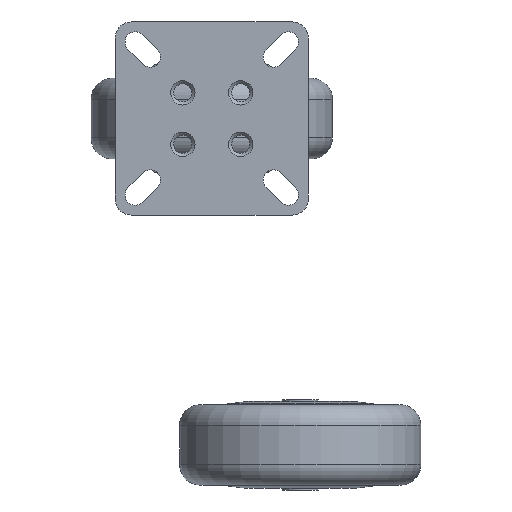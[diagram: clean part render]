
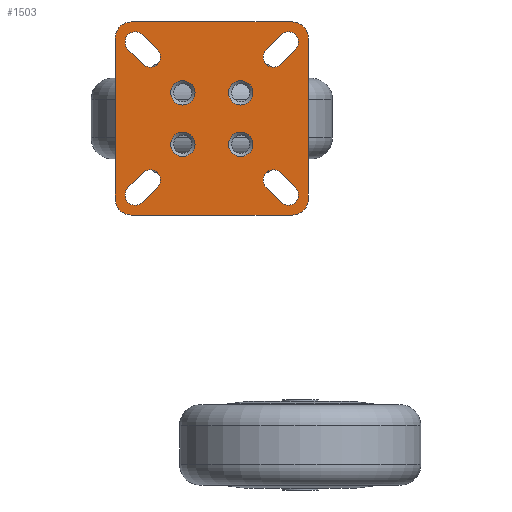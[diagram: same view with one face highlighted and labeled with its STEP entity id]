
A CAD part, front view. The second image highlights one B-rep face of the part: STEP entity #1503.
In plain terms, the highlighted planar face has unit normal (0, -1, 0) as drawn and (0, 1, 0) by its records, which use the part's own axes.
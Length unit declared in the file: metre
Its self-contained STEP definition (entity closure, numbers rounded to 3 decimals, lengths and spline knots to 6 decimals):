
#1503=ADVANCED_FACE('',(#4033,#4034,#4035,#4036,#4037,#4038,#4039,#4040,#4041),#4042,.T.);
#4033=FACE_OUTER_BOUND('',#6831,.T.);
#4034=FACE_BOUND('',#6832,.T.);
#4035=FACE_BOUND('',#6833,.T.);
#4036=FACE_BOUND('',#6834,.T.);
#4037=FACE_BOUND('',#6835,.T.);
#4038=FACE_BOUND('',#6836,.T.);
#4039=FACE_BOUND('',#6837,.T.);
#4040=FACE_BOUND('',#6838,.T.);
#4041=FACE_BOUND('',#6839,.T.);
#4042=PLANE('',#6840);
#6831=EDGE_LOOP('',(#18035,#18036,#18037,#18038,#18039,#18040,#18041,#18042));
#6832=EDGE_LOOP('',(#18043,#18044,#18045,#18046));
#6833=EDGE_LOOP('',(#18047,#18048,#18049,#18050));
#6834=EDGE_LOOP('',(#18051,#18052,#18053,#18054));
#6835=EDGE_LOOP('',(#18055));
#6836=EDGE_LOOP('',(#18056));
#6837=EDGE_LOOP('',(#18057));
#6838=EDGE_LOOP('',(#18058));
#6839=EDGE_LOOP('',(#18059,#18060,#18061,#18062));
#6840=AXIS2_PLACEMENT_3D('',#18063,#18064,#18065);
#18035=ORIENTED_EDGE('',*,*,#21732,.T.);
#18036=ORIENTED_EDGE('',*,*,#21733,.T.);
#18037=ORIENTED_EDGE('',*,*,#21734,.T.);
#18038=ORIENTED_EDGE('',*,*,#21735,.T.);
#18039=ORIENTED_EDGE('',*,*,#21736,.T.);
#18040=ORIENTED_EDGE('',*,*,#21737,.T.);
#18041=ORIENTED_EDGE('',*,*,#21738,.T.);
#18042=ORIENTED_EDGE('',*,*,#21739,.T.);
#18043=ORIENTED_EDGE('',*,*,#21740,.F.);
#18044=ORIENTED_EDGE('',*,*,#21741,.F.);
#18045=ORIENTED_EDGE('',*,*,#21742,.F.);
#18046=ORIENTED_EDGE('',*,*,#21743,.F.);
#18047=ORIENTED_EDGE('',*,*,#21744,.F.);
#18048=ORIENTED_EDGE('',*,*,#21745,.F.);
#18049=ORIENTED_EDGE('',*,*,#21746,.F.);
#18050=ORIENTED_EDGE('',*,*,#21747,.F.);
#18051=ORIENTED_EDGE('',*,*,#21730,.F.);
#18052=ORIENTED_EDGE('',*,*,#21748,.F.);
#18053=ORIENTED_EDGE('',*,*,#21749,.F.);
#18054=ORIENTED_EDGE('',*,*,#21750,.F.);
#18055=ORIENTED_EDGE('',*,*,#21751,.T.);
#18056=ORIENTED_EDGE('',*,*,#21752,.T.);
#18057=ORIENTED_EDGE('',*,*,#21753,.T.);
#18058=ORIENTED_EDGE('',*,*,#21754,.T.);
#18059=ORIENTED_EDGE('',*,*,#21755,.F.);
#18060=ORIENTED_EDGE('',*,*,#21756,.F.);
#18061=ORIENTED_EDGE('',*,*,#21757,.F.);
#18062=ORIENTED_EDGE('',*,*,#21758,.F.);
#18063=CARTESIAN_POINT('',(0.0,0.002,0.0));
#18064=DIRECTION('',(-0.0,1.0,0.0));
#18065=DIRECTION('',(1.0,0.0,0.0));
#21730=EDGE_CURVE('',#27143,#27145,#27146,.T.);
#21732=EDGE_CURVE('',#27148,#27149,#27150,.T.);
#21733=EDGE_CURVE('',#27149,#27151,#27152,.T.);
#21734=EDGE_CURVE('',#27151,#27153,#27154,.T.);
#21735=EDGE_CURVE('',#27153,#27155,#27156,.T.);
#21736=EDGE_CURVE('',#27155,#27157,#27158,.T.);
#21737=EDGE_CURVE('',#27157,#27159,#27160,.T.);
#21738=EDGE_CURVE('',#27159,#27161,#27162,.T.);
#21739=EDGE_CURVE('',#27161,#27148,#27163,.T.);
#21740=EDGE_CURVE('',#27164,#27165,#27166,.T.);
#21741=EDGE_CURVE('',#27167,#27164,#27168,.T.);
#21742=EDGE_CURVE('',#27169,#27167,#27170,.T.);
#21743=EDGE_CURVE('',#27165,#27169,#27171,.T.);
#21744=EDGE_CURVE('',#27172,#27173,#27174,.T.);
#21745=EDGE_CURVE('',#27175,#27172,#27176,.T.);
#21746=EDGE_CURVE('',#27177,#27175,#27178,.T.);
#21747=EDGE_CURVE('',#27173,#27177,#27179,.T.);
#21748=EDGE_CURVE('',#27180,#27143,#27181,.T.);
#21749=EDGE_CURVE('',#27182,#27180,#27183,.T.);
#21750=EDGE_CURVE('',#27145,#27182,#27184,.T.);
#21751=EDGE_CURVE('',#27185,#27185,#27186,.T.);
#21752=EDGE_CURVE('',#27187,#27187,#27188,.T.);
#21753=EDGE_CURVE('',#27189,#27189,#27190,.T.);
#21754=EDGE_CURVE('',#27191,#27191,#27192,.T.);
#21755=EDGE_CURVE('',#27193,#27194,#27195,.T.);
#21756=EDGE_CURVE('',#27196,#27193,#27197,.T.);
#21757=EDGE_CURVE('',#27198,#27196,#27199,.T.);
#21758=EDGE_CURVE('',#27194,#27198,#27200,.T.);
#27143=VERTEX_POINT('',#35927);
#27145=VERTEX_POINT('',#35930);
#27146=LINE('',#35931,#35932);
#27148=VERTEX_POINT('',#35935);
#27149=VERTEX_POINT('',#35936);
#27150=LINE('',#35937,#35938);
#27151=VERTEX_POINT('',#35939);
#27152=CIRCLE('',#35940,0.005);
#27153=VERTEX_POINT('',#35941);
#27154=LINE('',#35942,#35943);
#27155=VERTEX_POINT('',#35944);
#27156=CIRCLE('',#35945,0.005);
#27157=VERTEX_POINT('',#35946);
#27158=LINE('',#35947,#35948);
#27159=VERTEX_POINT('',#35949);
#27160=CIRCLE('',#35950,0.005);
#27161=VERTEX_POINT('',#35951);
#27162=LINE('',#35952,#35953);
#27163=CIRCLE('',#35954,0.005);
#27164=VERTEX_POINT('',#35955);
#27165=VERTEX_POINT('',#35956);
#27166=CIRCLE('',#35957,0.00315);
#27167=VERTEX_POINT('',#35958);
#27168=LINE('',#35959,#35960);
#27169=VERTEX_POINT('',#35961);
#27170=CIRCLE('',#35962,0.00315);
#27171=LINE('',#35963,#35964);
#27172=VERTEX_POINT('',#35965);
#27173=VERTEX_POINT('',#35966);
#27174=CIRCLE('',#35967,0.00315);
#27175=VERTEX_POINT('',#35968);
#27176=LINE('',#35969,#35970);
#27177=VERTEX_POINT('',#35971);
#27178=CIRCLE('',#35972,0.00315);
#27179=LINE('',#35973,#35974);
#27180=VERTEX_POINT('',#35975);
#27181=CIRCLE('',#35976,0.00315);
#27182=VERTEX_POINT('',#35977);
#27183=LINE('',#35978,#35979);
#27184=CIRCLE('',#35980,0.00315);
#27185=VERTEX_POINT('',#35981);
#27186=CIRCLE('',#35982,0.0038);
#27187=VERTEX_POINT('',#35983);
#27188=CIRCLE('',#35984,0.0038);
#27189=VERTEX_POINT('',#35985);
#27190=CIRCLE('',#35986,0.0038);
#27191=VERTEX_POINT('',#35987);
#27192=CIRCLE('',#35988,0.0038);
#27193=VERTEX_POINT('',#35989);
#27194=VERTEX_POINT('',#35990);
#27195=LINE('',#35991,#35992);
#27196=VERTEX_POINT('',#35993);
#27197=CIRCLE('',#35994,0.00315);
#27198=VERTEX_POINT('',#35995);
#27199=LINE('',#35996,#35997);
#27200=CIRCLE('',#35998,0.00315);
#35927=CARTESIAN_POINT('',(-0.021327,0.002,0.016873));
#35930=CARTESIAN_POINT('',(-0.026027,0.002,0.021573));
#35931=CARTESIAN_POINT('',(-0.021327,0.002,0.016873));
#35932=VECTOR('',#42325,1.0);
#35935=CARTESIAN_POINT('',(0.025,0.002,-0.03));
#35936=CARTESIAN_POINT('',(-0.025,0.002,-0.03));
#35937=CARTESIAN_POINT('',(0.0,0.002,-0.03));
#35938=VECTOR('',#42327,1.0);
#35939=CARTESIAN_POINT('',(-0.03,0.002,-0.025));
#35940=AXIS2_PLACEMENT_3D('',#42328,#42329,#42330);
#35941=CARTESIAN_POINT('',(-0.03,0.002,0.025));
#35942=CARTESIAN_POINT('',(-0.03,0.002,0.0));
#35943=VECTOR('',#42331,1.0);
#35944=CARTESIAN_POINT('',(-0.025,0.002,0.03));
#35945=AXIS2_PLACEMENT_3D('',#42332,#42333,#42334);
#35946=CARTESIAN_POINT('',(0.025,0.002,0.03));
#35947=CARTESIAN_POINT('',(0.0,0.002,0.03));
#35948=VECTOR('',#42335,1.0);
#35949=CARTESIAN_POINT('',(0.03,0.002,0.025));
#35950=AXIS2_PLACEMENT_3D('',#42336,#42337,#42338);
#35951=CARTESIAN_POINT('',(0.03,0.002,-0.025));
#35952=CARTESIAN_POINT('',(0.03,0.002,0.0));
#35953=VECTOR('',#42339,1.0);
#35954=AXIS2_PLACEMENT_3D('',#42340,#42341,#42342);
#35955=CARTESIAN_POINT('',(0.021573,0.002,0.026027));
#35956=CARTESIAN_POINT('',(0.026027,0.002,0.021573));
#35957=AXIS2_PLACEMENT_3D('',#42343,#42344,#42345);
#35958=CARTESIAN_POINT('',(0.016873,0.002,0.021327));
#35959=CARTESIAN_POINT('',(0.016873,0.002,0.021327));
#35960=VECTOR('',#42346,1.0);
#35961=CARTESIAN_POINT('',(0.021327,0.002,0.016873));
#35962=AXIS2_PLACEMENT_3D('',#42347,#42348,#42349);
#35963=CARTESIAN_POINT('',(0.026027,0.002,0.021573));
#35964=VECTOR('',#42350,1.0);
#35965=CARTESIAN_POINT('',(-0.021573,0.002,-0.026027));
#35966=CARTESIAN_POINT('',(-0.026027,0.002,-0.021573));
#35967=AXIS2_PLACEMENT_3D('',#42351,#42352,#42353);
#35968=CARTESIAN_POINT('',(-0.016873,0.002,-0.021327));
#35969=CARTESIAN_POINT('',(-0.016873,0.002,-0.021327));
#35970=VECTOR('',#42354,1.0);
#35971=CARTESIAN_POINT('',(-0.021327,0.002,-0.016873));
#35972=AXIS2_PLACEMENT_3D('',#42355,#42356,#42357);
#35973=CARTESIAN_POINT('',(-0.026027,0.002,-0.021573));
#35974=VECTOR('',#42358,1.0);
#35975=CARTESIAN_POINT('',(-0.016873,0.002,0.021327));
#35976=AXIS2_PLACEMENT_3D('',#42359,#42360,#42361);
#35977=CARTESIAN_POINT('',(-0.021573,0.002,0.026027));
#35978=CARTESIAN_POINT('',(-0.021573,0.002,0.026027));
#35979=VECTOR('',#42362,1.0);
#35980=AXIS2_PLACEMENT_3D('',#42363,#42364,#42365);
#35981=CARTESIAN_POINT('',(0.009,0.002,0.0118));
#35982=AXIS2_PLACEMENT_3D('',#42366,#42367,#42368);
#35983=CARTESIAN_POINT('',(-0.009,0.002,0.0118));
#35984=AXIS2_PLACEMENT_3D('',#42369,#42370,#42371);
#35985=CARTESIAN_POINT('',(0.009,0.002,-0.0042));
#35986=AXIS2_PLACEMENT_3D('',#42372,#42373,#42374);
#35987=CARTESIAN_POINT('',(-0.009,0.002,-0.0042));
#35988=AXIS2_PLACEMENT_3D('',#42375,#42376,#42377);
#35989=CARTESIAN_POINT('',(0.021327,0.002,-0.016873));
#35990=CARTESIAN_POINT('',(0.026027,0.002,-0.021573));
#35991=CARTESIAN_POINT('',(0.021327,0.002,-0.016873));
#35992=VECTOR('',#42378,1.0);
#35993=CARTESIAN_POINT('',(0.016873,0.002,-0.021327));
#35994=AXIS2_PLACEMENT_3D('',#42379,#42380,#42381);
#35995=CARTESIAN_POINT('',(0.021573,0.002,-0.026027));
#35996=CARTESIAN_POINT('',(0.021573,0.002,-0.026027));
#35997=VECTOR('',#42382,1.0);
#35998=AXIS2_PLACEMENT_3D('',#42383,#42384,#42385);
#42325=DIRECTION('',(-0.707,0.0,0.707));
#42327=DIRECTION('',(-1.0,0.0,0.0));
#42328=CARTESIAN_POINT('',(-0.025,0.002,-0.025));
#42329=DIRECTION('',(0.0,1.0,0.0));
#42330=DIRECTION('',(0.0,0.0,1.0));
#42331=DIRECTION('',(0.0,0.0,1.0));
#42332=CARTESIAN_POINT('',(-0.025,0.002,0.025));
#42333=DIRECTION('',(0.0,1.0,0.0));
#42334=DIRECTION('',(0.0,0.0,1.0));
#42335=DIRECTION('',(1.0,0.0,0.0));
#42336=CARTESIAN_POINT('',(0.025,0.002,0.025));
#42337=DIRECTION('',(0.0,1.0,0.0));
#42338=DIRECTION('',(0.0,0.0,1.0));
#42339=DIRECTION('',(0.0,0.0,-1.0));
#42340=CARTESIAN_POINT('',(0.025,0.002,-0.025));
#42341=DIRECTION('',(0.0,1.0,0.0));
#42342=DIRECTION('',(0.0,0.0,1.0));
#42343=CARTESIAN_POINT('',(0.0238,0.002,0.0238));
#42344=DIRECTION('',(0.0,1.0,0.0));
#42345=DIRECTION('',(0.0,0.0,1.0));
#42346=DIRECTION('',(0.707,0.0,0.707));
#42347=CARTESIAN_POINT('',(0.0191,0.002,0.0191));
#42348=DIRECTION('',(0.0,1.0,0.0));
#42349=DIRECTION('',(0.0,0.0,1.0));
#42350=DIRECTION('',(-0.707,0.0,-0.707));
#42351=CARTESIAN_POINT('',(-0.0238,0.002,-0.0238));
#42352=DIRECTION('',(0.0,1.0,0.0));
#42353=DIRECTION('',(0.0,0.0,1.0));
#42354=DIRECTION('',(-0.707,0.0,-0.707));
#42355=CARTESIAN_POINT('',(-0.0191,0.002,-0.0191));
#42356=DIRECTION('',(0.0,1.0,0.0));
#42357=DIRECTION('',(0.0,0.0,1.0));
#42358=DIRECTION('',(0.707,0.0,0.707));
#42359=CARTESIAN_POINT('',(-0.0191,0.002,0.0191));
#42360=DIRECTION('',(0.0,1.0,0.0));
#42361=DIRECTION('',(0.0,0.0,1.0));
#42362=DIRECTION('',(0.707,0.0,-0.707));
#42363=CARTESIAN_POINT('',(-0.0238,0.002,0.0238));
#42364=DIRECTION('',(0.0,1.0,0.0));
#42365=DIRECTION('',(0.0,0.0,1.0));
#42366=CARTESIAN_POINT('',(0.009,0.002,0.008));
#42367=DIRECTION('',(0.0,-1.0,0.0));
#42368=DIRECTION('',(0.0,0.0,1.0));
#42369=CARTESIAN_POINT('',(-0.009,0.002,0.008));
#42370=DIRECTION('',(0.0,-1.0,0.0));
#42371=DIRECTION('',(0.0,0.0,1.0));
#42372=CARTESIAN_POINT('',(0.009,0.002,-0.008));
#42373=DIRECTION('',(0.0,-1.0,0.0));
#42374=DIRECTION('',(0.0,0.0,1.0));
#42375=CARTESIAN_POINT('',(-0.009,0.002,-0.008));
#42376=DIRECTION('',(0.0,-1.0,0.0));
#42377=DIRECTION('',(0.0,0.0,1.0));
#42378=DIRECTION('',(0.707,0.0,-0.707));
#42379=CARTESIAN_POINT('',(0.0191,0.002,-0.0191));
#42380=DIRECTION('',(0.0,1.0,0.0));
#42381=DIRECTION('',(0.0,0.0,1.0));
#42382=DIRECTION('',(-0.707,0.0,0.707));
#42383=CARTESIAN_POINT('',(0.0238,0.002,-0.0238));
#42384=DIRECTION('',(0.0,1.0,0.0));
#42385=DIRECTION('',(0.0,0.0,1.0));
